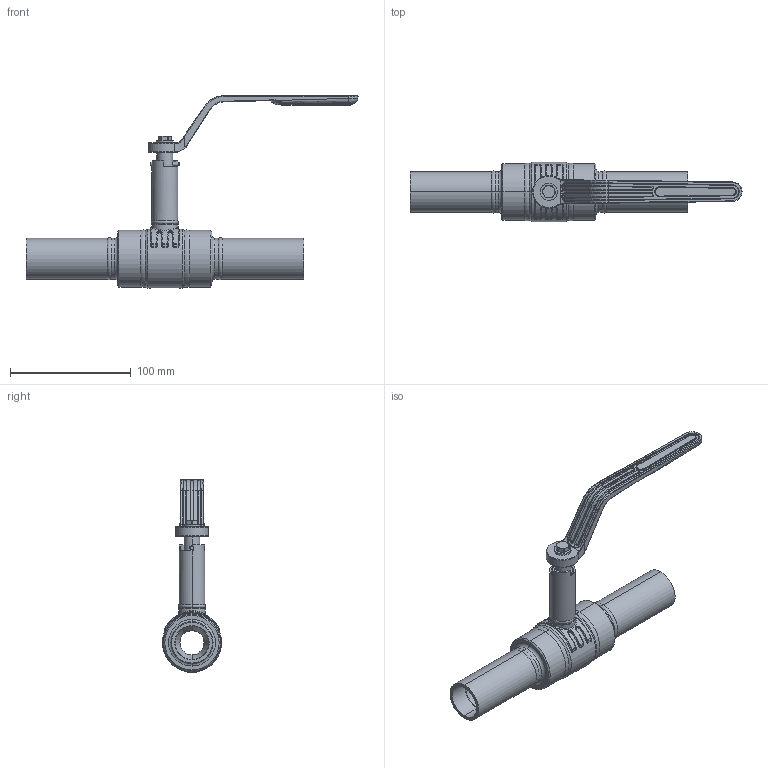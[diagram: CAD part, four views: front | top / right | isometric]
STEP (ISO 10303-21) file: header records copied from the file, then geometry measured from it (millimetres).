
FILE_DESCRIPTION((''),'2;1');
FILE_NAME('KHMO-S-R-H-025R020P04_SW0001','2022-10-18T15:41:58',('jeitlers'),('KLINGER'),'CREO PARAMETRIC BY PTC INC, 2020184','CREO PARAMETRIC BY PTC INC, 2020184','');
FILE_SCHEMA(('AUTOMOTIVE_DESIGN { 1 0 10303 214 1 1 1 1 }'));
Length unit declared in the file: millimetre
Products named in the file (1): KHMO-S-R-H-025R020P04_SW0001
Bounding box: 275 x 49 x 159.5 mm (x, y, z)
Volume: 186338 mm3; surface area: 80362.8 mm2
Topology: 1 solids, 1 shells, 631 faces, 1422 edges, 806 vertices
Faces by surface type: cylinder 209, bspline 142, plane 108, torus 93, cone 66, sphere 8, extrusion 5
Entity records: 36693 total; most frequent: CARTESIAN_POINT 22652, ORIENTED_EDGE 2840, DIRECTION 2705, EDGE_CURVE 1420, AXIS2_PLACEMENT_3D 1127, VERTEX_POINT 806, EDGE_LOOP 662, FACE_OUTER_BOUND 631
